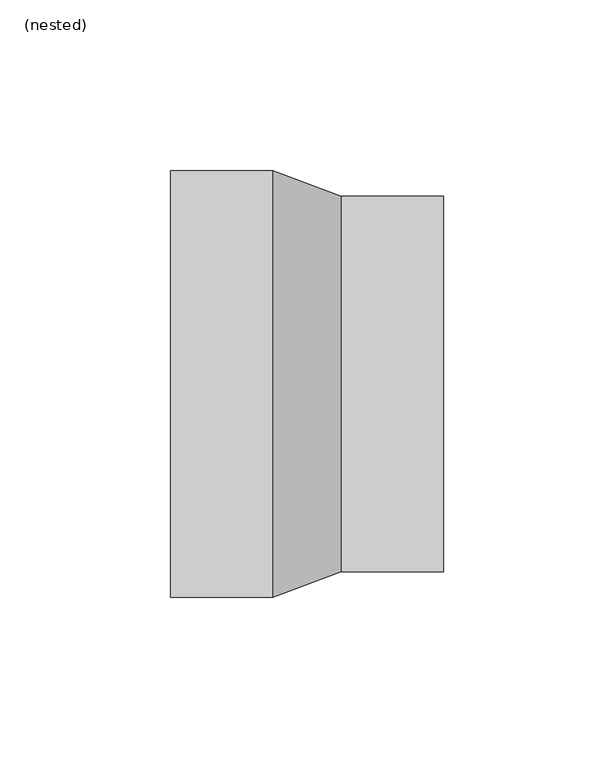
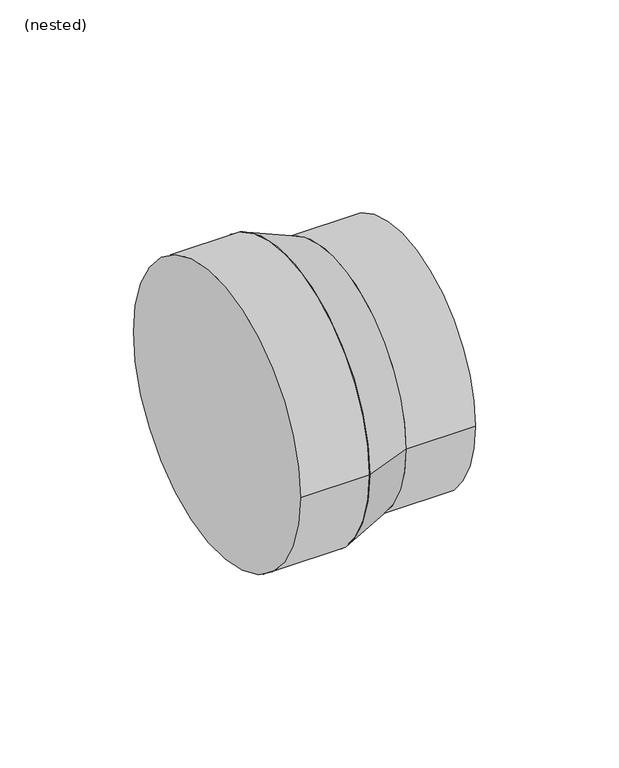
"""IFC4 building model written with IfcOpenShell, lengths in millimetres: pipe fitting geometry, NLRS_52_PIF_UN_PE verloop centrisch, kort_SH_geb : (nested)."""

from ifc_helpers import new_model, si_unit, point, frame, origin, origin_2d, place, context, project, spatial, polyline, circle_curve, trimmed, segment, composite_curve, outline, extrude, source, transform, mapped, element, save
from ifc_brep_helpers import plane_surface, revolved_surface, advanced_brep


def nested_bcde11aa(model_context):
    return source(origin(), model_context, "Body", "SolidModel", [
        advanced_brep(
        [(10.0, -55.0, 0.0), (10.0, 55.0, 0.0), (-10.0, -62.5, 0.0), (-10.0, 62.5, 0.0)],
        [
            (0, 1, circle_curve(frame((10.0, 0.0, 0.0), z_axis=(1.0, 0.0, 0.0), x_axis=(0.0, -1.0, 0.0)), 55.0)),
            (1, 0, circle_curve(frame((10.0, 0.0, 0.0), z_axis=(1.0, 0.0, 0.0), x_axis=(0.0, 1.0, 0.0)), 55.0)),
            (2, 3, circle_curve(frame((-10.0, 0.0, 0.0), z_axis=(-1.0, 0.0, 0.0), x_axis=(0.0, 1.0, 0.0)), 62.5)),
            (3, 2, circle_curve(frame((-10.0, 0.0, 0.0), z_axis=(-1.0, 0.0, 0.0), x_axis=(0.0, -1.0, 0.0)), 62.5)),
            (3, 1),
            (0, 2),
        ],
        [
            plane_surface(frame((10.0, 0.0, 0.0), z_axis=(1.0, 0.0, 0.0), x_axis=(0.0, 0.0, -1.0))),
            plane_surface(frame((-10.0, 0.0, 0.0), z_axis=(-1.0, 0.0, 0.0), x_axis=(0.0, 0.0, -1.0))),
            revolved_surface(polyline([(10.0, -55.0000000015, 0.0), (-10.0, -62.5, 0.0)]), (156.6666667, 0.0, 0.0), (-1.0, 0.0, 0.0)),
            revolved_surface(polyline([(10.0, 55.0000000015, 0.0), (-10.0, 62.5, 0.0)]), (156.6666667, 0.0, 0.0), (-1.0, 0.0, 0.0)),
        ],
        [
            (0, [[1, 2]]),
            (1, [[3, 4]]),
            (2, [[-4, 5, -1, 6]]),
            (3, [[-3, -6, -2, -5]]),
        ],
    ),
        extrude(outline(composite_curve([segment(trimmed(circle_curve(origin_2d(), 55.0), [point((-55.0, 0.0))], [point((55.0, 0.0))], False, "CARTESIAN"), True, "CONTINUOUS"), segment(trimmed(circle_curve(origin_2d(), 55.0), [point((55.0, 0.0))], [point((-55.0, 0.0))], False, "CARTESIAN"), True, "CONTINUOUS")], self_intersect=False)), frame((10.0, 0.0, 0.0), z_axis=(1.0, 0.0, 0.0), x_axis=(0.0, 1.0, 0.0)), (0.0, 0.0, 1.0), 30.0),
        extrude(outline(composite_curve([segment(trimmed(circle_curve(origin_2d(), 62.5), [point((-62.5, 0.0))], [point((62.5, 0.0))], False, "CARTESIAN"), True, "CONTINUOUS"), segment(trimmed(circle_curve(origin_2d(), 62.5), [point((62.5, 0.0))], [point((-62.5, 0.0))], False, "CARTESIAN"), True, "CONTINUOUS")], self_intersect=False)), frame((-40.0, 0.0, 0.0), z_axis=(1.0, 0.0, 0.0), x_axis=(0.0, 1.0, 0.0)), (0.0, 0.0, 1.0), 30.0),
    ])


if __name__ == "__main__":
    model = new_model("IFC4")
    model_context = context("Model", 3, world=origin())
    ifc_project = project(units=[si_unit("LENGTHUNIT", "METRE", prefix="MILLI")], contexts=[model_context])
    site = spatial("IfcSite", under=ifc_project)
    building = spatial("IfcBuilding", under=site)
    placement = place(None, origin())
    nested_shape = nested_bcde11aa(model_context)
    element("IfcPipeFitting", 1, ObjectType="NLRS_52_PIF_UN_PE verloop centrisch, kort_SH_geb : (nested)", at=placement, inside=building, context=model_context, shape_type="MappedRepresentation", body=[
        mapped(nested_shape, transform((0.0, 0.0, 0.0), x_axis=(1.0, 0.0, 0.0), y_axis=(0.0, 1.0, 0.0), z_axis=(0.0, 0.0, 1.0))),
    ])
    save(model, "model.ifc")
